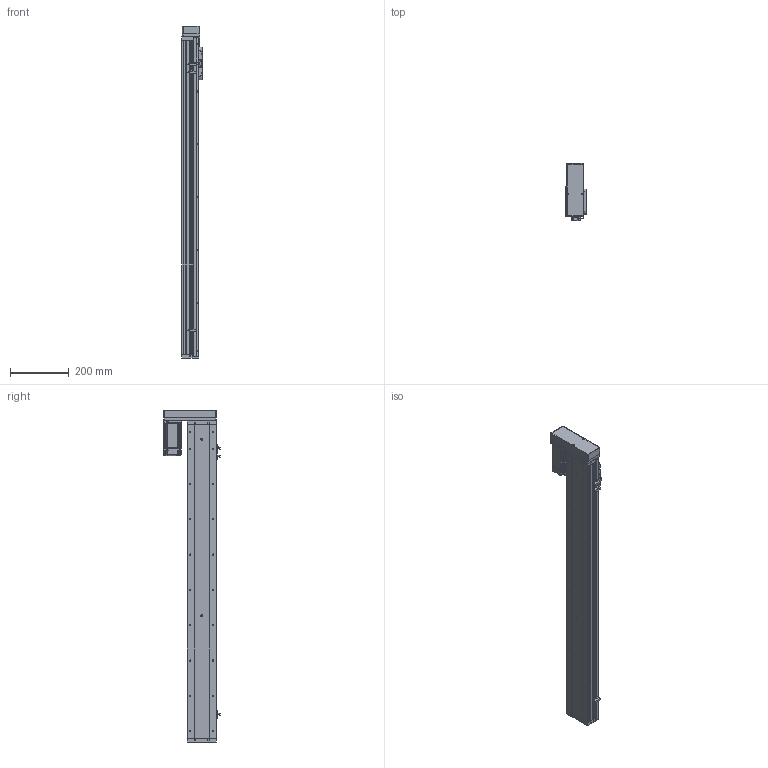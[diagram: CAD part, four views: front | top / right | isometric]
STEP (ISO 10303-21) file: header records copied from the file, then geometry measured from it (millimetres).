
FILE_DESCRIPTION (( 'STEP AP214' ), '1' );
FILE_NAME ('KSD100S-S900-ML-CR.STEP', '2019-09-02T08:27:04', ( '微软用户' ), ( '微软中国' ), 'SwSTEP 2.0', 'SolidWorks 2014', '' );
FILE_SCHEMA (( 'AUTOMOTIVE_DESIGN' ));
Length unit declared in the file: millimetre
Products named in the file (14): MHMD042G1CA_2_03; 悵誘欶酘衵殏; 100宽马达安装板连板左右折丝杆; U倰嫖萇EEㄜSX672; 感应片100宽全封闭; 100宽马达安装板全封闭; 100宽端板全封闭; 100宽滚珠螺姆安装板1防护罩; 100宽滚珠螺姆安装板1; 100遵裔啣揤啣; 100遵裔啣900俴最; 100遵耜啣900俴最佪裝; 100宽底板全封闭900行程丝杆; KSD100S-S900-ML-CR
Assembly tree (17 placements, depth 2):
  KSD100S-S900-ML-CR
    100宽底板全封闭900行程丝杆
    100遵耜啣900俴最佪裝  x2
    100遵裔啣900俴最
    100遵裔啣揤啣  x2
    100宽滚珠螺姆安装板1
    100宽滚珠螺姆安装板1防护罩
    100宽端板全封闭
    100宽马达安装板全封闭
    感应片100宽全封闭
    U倰嫖萇EEㄜSX672  x3
    100宽马达安装板连板左右折丝杆
    悵誘欶酘衵殏
    MHMD042G1CA_2_03
Bounding box: 70 x 193.7 x 1128.5 mm (x, y, z)
Volume: 2251319 mm3; surface area: 1008339.7 mm2
Topology: 16 solids, 17 shells, 1761 faces, 4918 edges, 3116 vertices
Faces by surface type: cylinder 771, plane 703, cone 269, bspline 18
Entity records: 59116 total; most frequent: CARTESIAN_POINT 9358, DIRECTION 8409, ORIENTED_EDGE 7752, EDGE_CURVE 3948, AXIS2_PLACEMENT_3D 3031, VERTEX_POINT 2614, LINE 2347, VECTOR 2347
